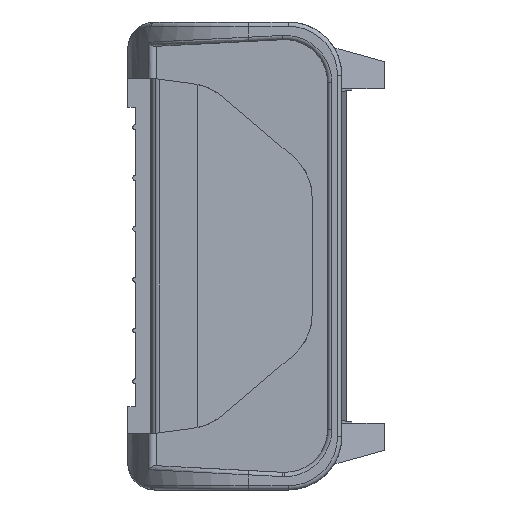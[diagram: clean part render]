
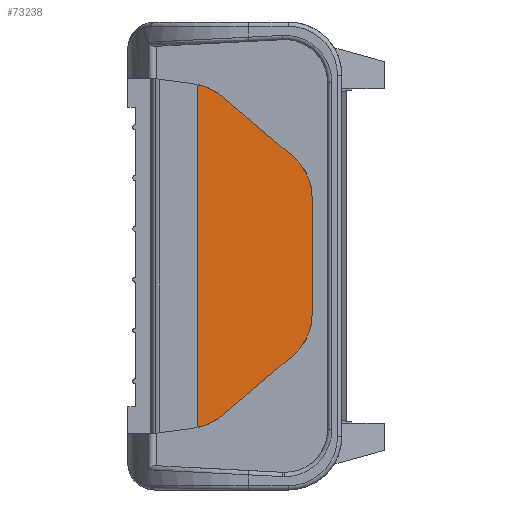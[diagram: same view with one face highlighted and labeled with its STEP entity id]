
A CAD part, left-side view. The second image highlights one B-rep face of the part: STEP entity #73238.
In plain terms, the highlighted planar face has unit normal (-0.999, -0.052, 0).
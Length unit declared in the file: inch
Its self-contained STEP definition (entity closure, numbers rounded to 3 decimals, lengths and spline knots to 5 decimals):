
#3646 = CARTESIAN_POINT ( 'NONE',  ( -3.826, -0.27165, 1.98951 ) ) ;
#7029 = VECTOR ( 'NONE', #45148, 39.37008 ) ;
#8019 = EDGE_CURVE ( 'NONE', #53125, #78888, #86200, .T. ) ;
#8351 = VECTOR ( 'NONE', #45235, 39.37008 ) ;
#9039 = DIRECTION ( 'NONE',  ( 0., 0., 1. ) ) ;
#12902 = CARTESIAN_POINT ( 'NONE',  ( -3.826, -0.27165, 1.91336 ) ) ;
#12913 = VECTOR ( 'NONE', #103213, 39.37008 ) ;
#20029 = ORIENTED_EDGE ( 'NONE', *, *, #31617, .T. ) ;
#22512 = DIRECTION ( 'NONE',  ( -0.999, -0.052, 0. ) ) ;
#22570 = VERTEX_POINT ( 'NONE', #12902 ) ;
#24260 = FACE_OUTER_BOUND ( 'NONE', #54939, .T. ) ;
#29451 = LINE ( 'NONE', #80014, #7029 ) ;
#31617 = EDGE_CURVE ( 'NONE', #78888, #34853, #40161, .T. ) ;
#34853 = VERTEX_POINT ( 'NONE', #69654 ) ;
#35749 = CARTESIAN_POINT ( 'NONE',  ( -3.8404, 0.00323, 1.92776 ) ) ;
#37682 = CARTESIAN_POINT ( 'NONE',  ( -3.7647, -1.44124, -1.53145 ) ) ;
#37896 = EDGE_CURVE ( 'NONE', #84297, #53125, #63670, .T. ) ;
#40161 = LINE ( 'NONE', #101019, #104411 ) ;
#40523 = CARTESIAN_POINT ( 'NONE',  ( -3.76334, -1.46726, -1.51455 ) ) ;
#41559 = VECTOR ( 'NONE', #9039, 39.37008 ) ;
#42499 = EDGE_CURVE ( 'NONE', #105403, #22570, #46469, .T. ) ;
#43146 = LINE ( 'NONE', #35749, #12913 ) ;
#45148 = DIRECTION ( 'NONE',  ( 0.052, -0.997, 0.052 ) ) ;
#45235 = DIRECTION ( 'NONE',  ( 0., 0., 1. ) ) ;
#46469 = LINE ( 'NONE', #3646, #8351 ) ;
#52442 = CARTESIAN_POINT ( 'NONE',  ( -3.7647, -1.44124, 1.98951 ) ) ;
#52667 = EDGE_CURVE ( 'NONE', #105403, #84297, #29451, .T. ) ;
#53125 = VERTEX_POINT ( 'NONE', #37682 ) ;
#53366 = ORIENTED_EDGE ( 'NONE', *, *, #97984, .T. ) ;
#54939 = EDGE_LOOP ( 'NONE', ( #108350, #87484, #68626, #73453, #20029, #53366 ) ) ;
#60685 = CARTESIAN_POINT ( 'NONE',  ( -3.7647, -1.44124, 1.53145 ) ) ;
#61890 = AXIS2_PLACEMENT_3D ( 'NONE', #106922, #22512, #80584 ) ;
#63670 = LINE ( 'NONE', #40523, #92620 ) ;
#68626 = ORIENTED_EDGE ( 'NONE', *, *, #37896, .T. ) ;
#69654 = CARTESIAN_POINT ( 'NONE',  ( -3.79285, -0.9042, 1.88021 ) ) ;
#73217 = PLANE ( 'NONE',  #61890 ) ;
#73238 = ADVANCED_FACE ( 'NONE', ( #24260 ), #73217, .T. ) ;
#73453 = ORIENTED_EDGE ( 'NONE', *, *, #8019, .T. ) ;
#74861 = CARTESIAN_POINT ( 'NONE',  ( -3.826, -0.27165, -1.91336 ) ) ;
#74984 = DIRECTION ( 'NONE',  ( -0.044, 0.838, 0.544 ) ) ;
#78888 = VERTEX_POINT ( 'NONE', #60685 ) ;
#80014 = CARTESIAN_POINT ( 'NONE',  ( -3.82954, -0.20417, -1.91689 ) ) ;
#80584 = DIRECTION ( 'NONE',  ( 0.052, -0.999, 0. ) ) ;
#84297 = VERTEX_POINT ( 'NONE', #102675 ) ;
#86200 = LINE ( 'NONE', #52442, #41559 ) ;
#87484 = ORIENTED_EDGE ( 'NONE', *, *, #52667, .T. ) ;
#92620 = VECTOR ( 'NONE', #99211, 39.37008 ) ;
#97984 = EDGE_CURVE ( 'NONE', #34853, #22570, #43146, .T. ) ;
#99211 = DIRECTION ( 'NONE',  ( 0.044, -0.838, 0.544 ) ) ;
#101019 = CARTESIAN_POINT ( 'NONE',  ( -3.79369, -0.88805, 1.89069 ) ) ;
#102675 = CARTESIAN_POINT ( 'NONE',  ( -3.79285, -0.9042, -1.88021 ) ) ;
#103213 = DIRECTION ( 'NONE',  ( -0.052, 0.997, 0.052 ) ) ;
#104411 = VECTOR ( 'NONE', #74984, 39.37008 ) ;
#105403 = VERTEX_POINT ( 'NONE', #74861 ) ;
#106922 = CARTESIAN_POINT ( 'NONE',  ( -3.84024, 0., 1.98951 ) ) ;
#108350 = ORIENTED_EDGE ( 'NONE', *, *, #42499, .F. ) ;
